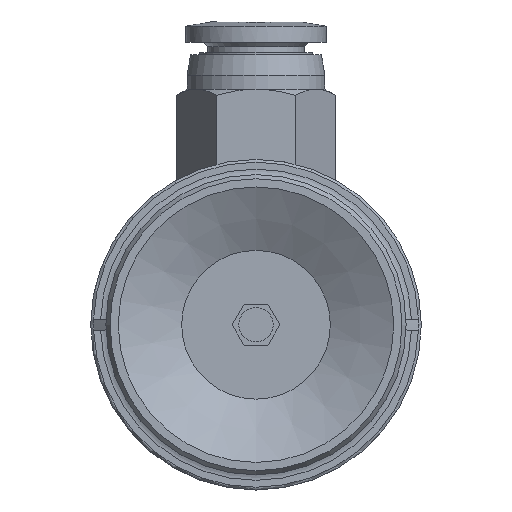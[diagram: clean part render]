
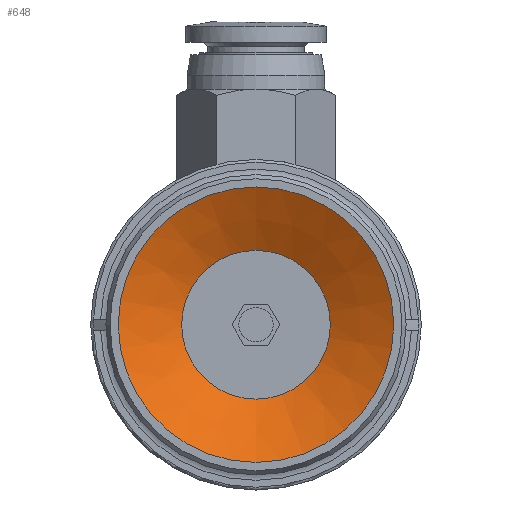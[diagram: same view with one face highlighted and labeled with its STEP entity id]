
A CAD part, front view. The second image highlights one B-rep face of the part: STEP entity #648.
In plain terms, the highlighted conical face has half-angle 61.631 degrees and reference radius 5.4 mm.
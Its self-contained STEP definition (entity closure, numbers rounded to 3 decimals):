
#648=ADVANCED_FACE('',(#1027,#1028),#1029,.F.);
#1027=FACE_BOUND('',#1492,.T.);
#1028=FACE_OUTER_BOUND('',#1493,.T.);
#1029=CONICAL_SURFACE('',#1494,5.4,1.076);
#1492=EDGE_LOOP('',(#2784));
#1493=EDGE_LOOP('',(#2785));
#1494=AXIS2_PLACEMENT_3D('',#2786,#2787,#2788);
#2784=ORIENTED_EDGE('',*,*,#3412,.F.);
#2785=ORIENTED_EDGE('',*,*,#3372,.T.);
#2786=CARTESIAN_POINT('',(0.0,2.484,0.0));
#2787=DIRECTION('',(-0.0,-1.0,0.));
#2788=DIRECTION('',(0.0,0.,-1.0));
#3372=EDGE_CURVE('',#3891,#3891,#3892,.T.);
#3412=EDGE_CURVE('',#3963,#3963,#3964,.T.);
#3891=VERTEX_POINT('',#4981);
#3892=CIRCLE('',#4982,10.0);
#3963=VERTEX_POINT('',#5065);
#3964=CIRCLE('',#5066,5.4);
#4981=CARTESIAN_POINT('',(0.0,0.,-10.0));
#4982=AXIS2_PLACEMENT_3D('',#5857,#5858,#5859);
#5065=CARTESIAN_POINT('',(0.0,2.484,-5.4));
#5066=AXIS2_PLACEMENT_3D('',#5953,#5954,#5955);
#5857=CARTESIAN_POINT('',(0.0,0.0,0.0));
#5858=DIRECTION('',(0.0,-1.0,0.));
#5859=DIRECTION('',(0.0,0.,-1.0));
#5953=CARTESIAN_POINT('',(0.0,2.484,0.0));
#5954=DIRECTION('',(0.0,-1.0,0.));
#5955=DIRECTION('',(0.0,0.,-1.0));
